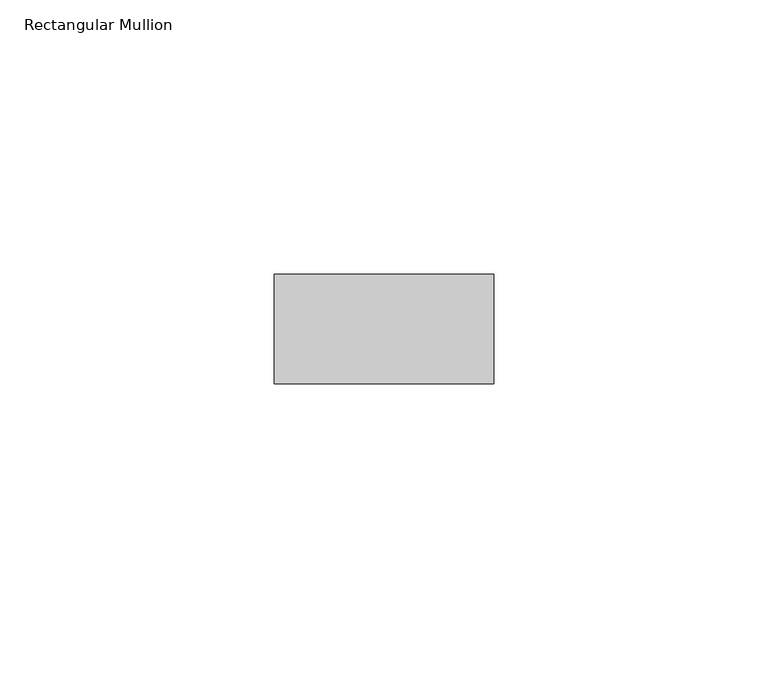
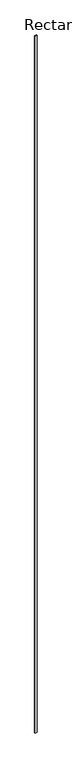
"""IFC4 building model written with IfcOpenShell, lengths in millimetres: member geometry, Rectangular Mullion : RIPA 4x2 cm."""

import ifcopenshell
import ifcopenshell.guid

model = None  # the IFC model being written
_history = None  # IfcOwnerHistory: only IFC2X3 demands one
_inside = {}  # id of a spatial element -> (the spatial element, [elements in it])
_under = {}  # id of a project, library or spatial element -> (it, [spatial elements below it])
_declared = {}  # id of a project -> (the project, [libraries it declares])
_typed = {}  # id of a type object -> (the type object, [elements of that type])
_made_of = {}  # id of a material, layer set ... -> (it, [elements and type objects made of it])


def new_model(schema):
    """Start an empty IFC model of exactly this schema.

    Asked for "IFC4X3", IfcOpenShell would pick the latest addendum, in which some entities
    have other attributes; the version numbers below select the first issue.
    IFC2X3 requires an IfcOwnerHistory on every rooted entity: one is made here for all.
    """
    global model, _history
    if schema == "IFC4X3":
        model = ifcopenshell.file(schema_version=(4, 3, 0, 0))
    else:
        model = ifcopenshell.file(schema=schema)
    _inside.clear()
    _under.clear()
    _declared.clear()
    _typed.clear()
    _made_of.clear()
    _history = None
    if model.schema == "IFC2X3":
        org = make("IfcOrganization", Name="unknown")
        user = make(
            "IfcPersonAndOrganization",
            ThePerson=make("IfcPerson", FamilyName="unknown"),
            TheOrganization=org,
        )
        app = make(
            "IfcApplication",
            ApplicationDeveloper=org,
            Version="unknown",
            ApplicationFullName="unknown",
            ApplicationIdentifier="unknown",
        )
        _history = make(
            "IfcOwnerHistory",
            OwningUser=user,
            OwningApplication=app,
            ChangeAction="ADDED",
            CreationDate=0,
        )
    return model


def make(cls, **values):
    """One entity of the class cls with the attributes given. An attribute that is None is left unset."""
    return model.create_entity(
        cls, **{name: value for name, value in values.items() if value is not None}
    )


def rooted(cls, **values):
    """An entity with a GlobalId (a new one), such as an element, a storey or a relation."""
    return make(cls, GlobalId=ifcopenshell.guid.new(), OwnerHistory=_history, **values)


def si_unit(unit_type, name, prefix=None):
    """IfcSIUnit, for example si_unit("LENGTHUNIT", "METRE", prefix="MILLI")."""
    return make("IfcSIUnit", UnitType=unit_type, Prefix=prefix, Name=name)


def assignment(units):
    """IfcUnitAssignment: the units of a project."""
    return None if units is None else make("IfcUnitAssignment", Units=units)


def point(xyz):
    """IfcCartesianPoint."""
    return None if xyz is None else make("IfcCartesianPoint", Coordinates=xyz)


def direction(xyz):
    """IfcDirection."""
    return None if xyz is None else make("IfcDirection", DirectionRatios=xyz)


def frame(location, z_axis=None, x_axis=None):
    """IfcAxis2Placement3D, a coordinate frame: its origin and axes. An axis left out is left unset."""
    return make(
        "IfcAxis2Placement3D",
        Location=point(location),
        Axis=direction(z_axis),
        RefDirection=direction(x_axis),
    )


def origin():
    """The frame at (0, 0, 0) with its axes left unset."""
    return frame((0.0, 0.0, 0.0))


def place(relative_to, where):
    """IfcLocalPlacement: puts the frame where relative to a parent placement (None: the world)."""
    return make(
        "IfcLocalPlacement", PlacementRelTo=relative_to, RelativePlacement=where
    )


def context(
    kind, dimensions, precision=None, world=None, true_north=None, identifier=None
):
    """IfcGeometricRepresentationContext, for example the 3D "Model" context."""
    return make(
        "IfcGeometricRepresentationContext",
        ContextIdentifier=identifier,
        ContextType=kind,
        CoordinateSpaceDimension=dimensions,
        Precision=precision,
        WorldCoordinateSystem=world,
        TrueNorth=true_north,
    )


def project(units=None, contexts=None):
    """IfcProject with its units and contexts."""
    return rooted(
        "IfcProject",
        Name="project",
        RepresentationContexts=contexts,
        UnitsInContext=assignment(units),
    )


def spatial(cls, under=None, at=None, **own):
    """A site, building, storey or space (cls), placed at a placement, below another one or the project."""
    s = rooted(cls, ObjectPlacement=at, **own)
    if under is not None:
        _under.setdefault(under.id(), (under, []))[1].append(s)
    return s


def polyline(points):
    """IfcPolyline through the points."""
    return make("IfcPolyline", Points=[point(p) for p in points])


def outline(outer, holes=None, kind="AREA"):
    """IfcArbitraryClosedProfileDef: a profile drawn as a closed curve; with holes, ...WithVoids."""
    if holes is None:
        return make("IfcArbitraryClosedProfileDef", ProfileType=kind, OuterCurve=outer)
    return make(
        "IfcArbitraryProfileDefWithVoids",
        ProfileType=kind,
        OuterCurve=outer,
        InnerCurves=holes,
    )


def extrude(swept, where, along, depth):
    """IfcExtrudedAreaSolid: the profile swept, set in the frame where, extruded along a direction by depth."""
    return make(
        "IfcExtrudedAreaSolid",
        SweptArea=swept,
        Position=where,
        ExtrudedDirection=direction(along),
        Depth=depth,
    )


def shape(context_of_items, identifier, shape_type, items):
    """IfcShapeRepresentation: the items that make up one representation, for example the "Body"."""
    return make(
        "IfcShapeRepresentation",
        ContextOfItems=context_of_items,
        RepresentationIdentifier=identifier,
        RepresentationType=shape_type,
        Items=items,
    )


def source(mapping_origin, context_of_items, identifier, shape_type, items):
    """IfcRepresentationMap: a shape defined once, which mapped items show again and again."""
    return make(
        "IfcRepresentationMap",
        MappingOrigin=mapping_origin,
        MappedRepresentation=shape(context_of_items, identifier, shape_type, items),
    )


def transform(
    local_origin,
    x_axis=None,
    y_axis=None,
    z_axis=None,
    scale=None,
    scale2=None,
    scale3=None,
    uniform=True,
):
    """IfcCartesianTransformationOperator3D, or its non-uniform kind. x_axis, y_axis, z_axis: its Axis1, 2, 3."""
    if uniform:
        return make(
            "IfcCartesianTransformationOperator3D",
            Axis1=direction(x_axis),
            Axis2=direction(y_axis),
            LocalOrigin=point(local_origin),
            Scale=scale,
            Axis3=direction(z_axis),
        )
    return make(
        "IfcCartesianTransformationOperator3DnonUniform",
        Axis1=direction(x_axis),
        Axis2=direction(y_axis),
        LocalOrigin=point(local_origin),
        Scale=scale,
        Axis3=direction(z_axis),
        Scale2=scale2,
        Scale3=scale3,
    )


def mapped(mapping_source, mapping_target):
    """IfcMappedItem: shows the shape of a source again, moved by a transform."""
    return make(
        "IfcMappedItem", MappingSource=mapping_source, MappingTarget=mapping_target
    )


def made_of(thing, what):
    """Note that an element or type object is made of a material, layer set ...; save() writes the relation."""
    if what is not None:
        _made_of.setdefault(what.id(), (what, []))[1].append(thing)
    return thing


def element(
    cls,
    number,
    at=None,
    inside=None,
    cuts=None,
    type_object=None,
    material=None,
    context=None,
    identifier="Body",
    shape_type=None,
    held_by="IfcProductDefinitionShape",
    body=None,
    shapes=None,
    **own,
):
    """One element of the class cls, such as IfcWall. Its Tag is "e" and its number.

    at: its placement. inside: the storey or other place that contains it. cuts: it is an
    opening in that element (IfcRelVoidsElement). A single representation is given by context,
    identifier, shape_type and body (its items); several are given by shapes. held_by: the class
    of the entity that holds the representations. save() writes the other relations.
    """
    e = rooted(cls, Tag="e%d" % number, ObjectPlacement=at, **own)
    if body is not None:
        shapes = [shape(context, identifier, shape_type, body)]
    if shapes is not None:
        e.Representation = make(held_by, Representations=shapes)
    if inside is not None:
        _inside.setdefault(inside.id(), (inside, []))[1].append(e)
    if cuts is not None:
        rooted(
            "IfcRelVoidsElement", RelatingBuildingElement=cuts, RelatedOpeningElement=e
        )
    if type_object is not None:
        _typed.setdefault(type_object.id(), (type_object, []))[1].append(e)
    return made_of(e, material)


def aggregate(whole, parts):
    """IfcRelAggregates: a whole, such as a stair, and the parts it consists of."""
    return rooted("IfcRelAggregates", RelatingObject=whole, RelatedObjects=parts)


def save(model, path):
    """Write the relations noted so far, then the file.

    IfcRelAggregates (storeys below a building ...), IfcRelContainedInSpatialStructure (elements
    in a storey), IfcRelDefinesByType, IfcRelAssociatesMaterial and IfcRelDeclares: one each for
    every whole, place, type object, material and project.
    """
    for whole, parts in _under.values():
        aggregate(whole, parts)
    for where, things in _inside.values():
        rooted(
            "IfcRelContainedInSpatialStructure",
            RelatedElements=things,
            RelatingStructure=where,
        )
    for kind, things in _typed.values():
        rooted("IfcRelDefinesByType", RelatedObjects=things, RelatingType=kind)
    for what, things in _made_of.values():
        rooted("IfcRelAssociatesMaterial", RelatedObjects=things, RelatingMaterial=what)
    for by, libraries in _declared.values():
        rooted("IfcRelDeclares", RelatingContext=by, RelatedDefinitions=libraries)
    model.write(path)


def rectangular_mullion_655400e7(model_context):
    return source(origin(), model_context, "Body", "SweptSolid", [
        extrude(outline(polyline([(20.0, 0.0), (20.0, -20.0), (-20.0, -20.0), (-20.0, 0.0), (20.0, 0.0)])), frame((0.0, 0.0, -16295.0), z_axis=(0.0, 0.0, 1.0), x_axis=(1.0, 0.0, 0.0)), (0.0, 0.0, 1.0), 16295.0),
    ])


if __name__ == "__main__":
    model = new_model("IFC4")
    model_context = context("Model", 3, world=origin())
    ifc_project = project(units=[si_unit("LENGTHUNIT", "METRE", prefix="MILLI")], contexts=[model_context])
    site = spatial("IfcSite", under=ifc_project)
    building = spatial("IfcBuilding", under=site)
    placement = place(None, origin())
    rectangular_mullion_shape = rectangular_mullion_655400e7(model_context)
    element("IfcMember", 1, ObjectType="Rectangular Mullion : RIPA 4x2 cm", at=placement, inside=building, context=model_context, shape_type="MappedRepresentation", body=[
        mapped(rectangular_mullion_shape, transform((0.0, 0.0, 0.0), x_axis=(1.0, 0.0, 0.0), y_axis=(0.0, 1.0, 0.0), z_axis=(0.0, 0.0, 1.0))),
    ])
    save(model, "model.ifc")
